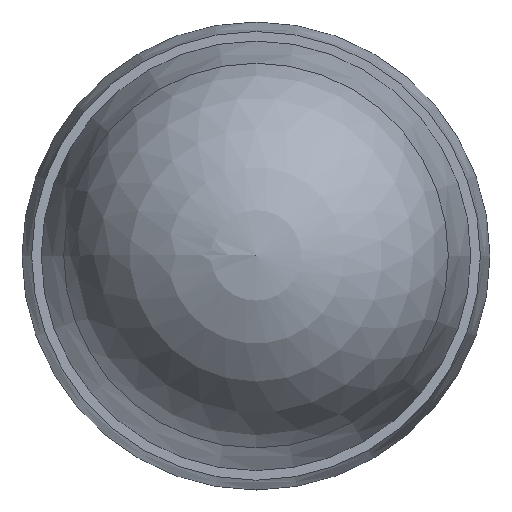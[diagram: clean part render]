
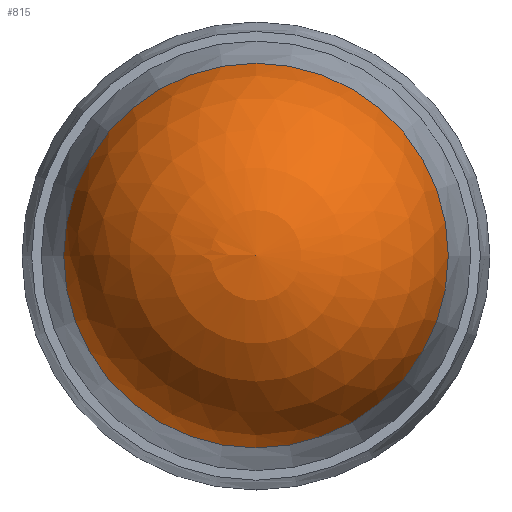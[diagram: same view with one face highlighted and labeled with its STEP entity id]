
A CAD part, top view. The second image highlights one B-rep face of the part: STEP entity #815.
In plain terms, the highlighted spherical face has radius 30.395 mm.
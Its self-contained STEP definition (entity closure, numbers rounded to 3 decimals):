
#815=ADVANCED_FACE('',(#1394),#1396,.T.);
#1394=FACE_OUTER_BOUND('',#1395,.T.);
#1395=EDGE_LOOP('',(#1758));
#1396=SPHERICAL_SURFACE('',#1397,30.395);
#1397=AXIS2_PLACEMENT_3D('',#1398,#1399,#1400);
#1398=CARTESIAN_POINT('',(0.,0.,29.605));
#1399=DIRECTION('',(0.,0.,-1.));
#1400=DIRECTION('',(-1.,0.,0.));
#1758=ORIENTED_EDGE('',*,*,#1919,.F.);
#1919=EDGE_CURVE('',#2060,#2060,#2061,.T.);
#2060=VERTEX_POINT('',#2368);
#2061=CIRCLE('',#2369,30.);
#2368=CARTESIAN_POINT('',(-30.,0.,34.491));
#2369=AXIS2_PLACEMENT_3D('',#2370,#2371,#2372);
#2370=CARTESIAN_POINT('',(0.,0.,34.491));
#2371=DIRECTION('',(0.,0.,-1.));
#2372=DIRECTION('',(-1.,0.,0.));
